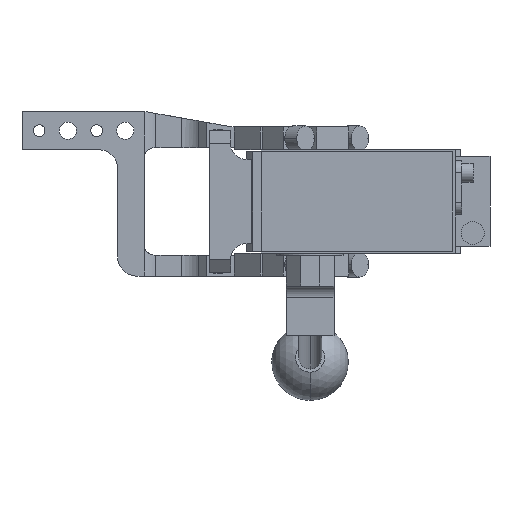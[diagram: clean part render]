
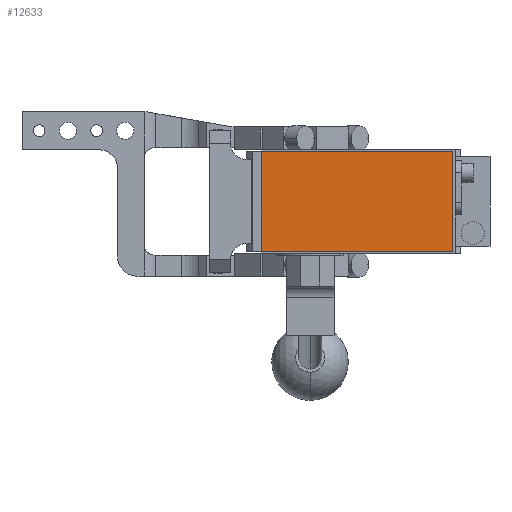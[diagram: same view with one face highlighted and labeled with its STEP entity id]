
A CAD part, front view. The second image highlights one B-rep face of the part: STEP entity #12633.
In plain terms, the highlighted planar face has unit normal (0, -1, 0).
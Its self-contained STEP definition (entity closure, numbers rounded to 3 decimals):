
#330 = ORIENTED_EDGE ( 'NONE', *, *, #770, .T. ) ;
#770 = EDGE_CURVE ( 'NONE', #12610, #1747, #12582, .T. ) ;
#989 = ORIENTED_EDGE ( 'NONE', *, *, #7950, .T. ) ;
#1018 = DIRECTION ( 'NONE',  ( 0., -1., 0. ) ) ;
#1062 = LINE ( 'NONE', #14797, #5347 ) ;
#1747 = VERTEX_POINT ( 'NONE', #14173 ) ;
#3206 = CARTESIAN_POINT ( 'NONE',  ( 0., -286.5, 0. ) ) ;
#3235 = DIRECTION ( 'NONE',  ( 0., 0., -1. ) ) ;
#3584 = DIRECTION ( 'NONE',  ( 1., 0., 0. ) ) ;
#4277 = CARTESIAN_POINT ( 'NONE',  ( -19., -286.5, 26. ) ) ;
#4562 = VECTOR ( 'NONE', #3235, 1000. ) ;
#5347 = VECTOR ( 'NONE', #3584, 1000. ) ;
#6041 = DIRECTION ( 'NONE',  ( 0., 0., 1. ) ) ;
#6219 = VERTEX_POINT ( 'NONE', #14437 ) ;
#7090 = ORIENTED_EDGE ( 'NONE', *, *, #8245, .T. ) ;
#7270 = CARTESIAN_POINT ( 'NONE',  ( 81., -286.5, 26. ) ) ;
#7378 = CARTESIAN_POINT ( 'NONE',  ( 81., -286.5, 26. ) ) ;
#7811 = DIRECTION ( 'NONE',  ( -1., 0., 0. ) ) ;
#7950 = EDGE_CURVE ( 'NONE', #6219, #12525, #1062, .T. ) ;
#8245 = EDGE_CURVE ( 'NONE', #1747, #6219, #14468, .T. ) ;
#8968 = EDGE_CURVE ( 'NONE', #12525, #12610, #10953, .T. ) ;
#9108 = VECTOR ( 'NONE', #7811, 1000. ) ;
#9566 = VECTOR ( 'NONE', #6041, 1000. ) ;
#9610 = CARTESIAN_POINT ( 'NONE',  ( 81., -286.5, -26. ) ) ;
#10953 = LINE ( 'NONE', #7270, #9566 ) ;
#11312 = FACE_OUTER_BOUND ( 'NONE', #14447, .T. ) ;
#11709 = ORIENTED_EDGE ( 'NONE', *, *, #8968, .T. ) ;
#12297 = DIRECTION ( 'NONE',  ( 0., 0., -1. ) ) ;
#12525 = VERTEX_POINT ( 'NONE', #9610 ) ;
#12582 = LINE ( 'NONE', #13751, #9108 ) ;
#12610 = VERTEX_POINT ( 'NONE', #7378 ) ;
#12633 = ADVANCED_FACE ( 'NONE', ( #11312 ), #15963, .T. ) ;
#13751 = CARTESIAN_POINT ( 'NONE',  ( -19., -286.5, 26. ) ) ;
#14173 = CARTESIAN_POINT ( 'NONE',  ( -19., -286.5, 26. ) ) ;
#14437 = CARTESIAN_POINT ( 'NONE',  ( -19., -286.5, -26. ) ) ;
#14447 = EDGE_LOOP ( 'NONE', ( #7090, #989, #11709, #330 ) ) ;
#14468 = LINE ( 'NONE', #4277, #4562 ) ;
#14797 = CARTESIAN_POINT ( 'NONE',  ( -19., -286.5, -26. ) ) ;
#15295 = AXIS2_PLACEMENT_3D ( 'NONE', #3206, #1018, #12297 ) ;
#15963 = PLANE ( 'NONE',  #15295 ) ;
